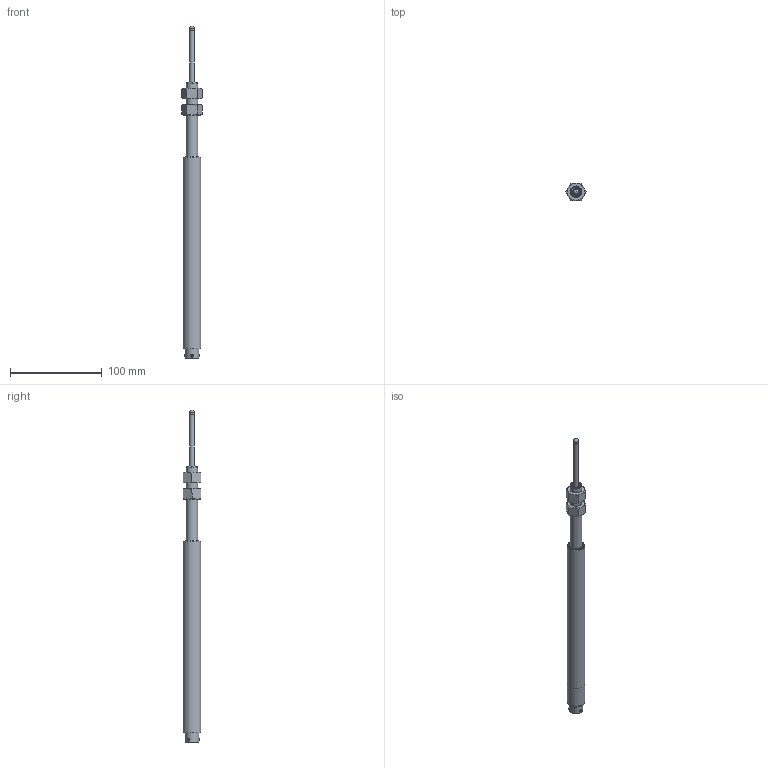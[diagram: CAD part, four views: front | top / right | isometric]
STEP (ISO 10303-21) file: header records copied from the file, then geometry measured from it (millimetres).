
FILE_DESCRIPTION(/* description */ (''),/* implementation_level */ '2;1');
FILE_NAME(/* name */ 'GH-750-I-2000 ASS''Y.iam.stp',/* time_stamp */ '2023-11-10T12:31:26-05:00',/* author */ ('Justin'),/* organization */ (''),/* preprocessor_version */ 'ST-DEVELOPER v20',/* originating_system */ 'Autodesk Inventor 2024',/* authorisation */ '');
FILE_SCHEMA (('AUTOMOTIVE_DESIGN { 1 0 10303 214 3 1 1 }'));
Length unit declared in the file: inch
Products named in the file (4): GH-750-D-1000 ASS'Y; GH-750-D-1000 HOUSING_SW; GH-750-D-1000 SHAFT_SW; AS 2465 - 1/2  UNF
Assembly tree (4 placements, depth 2):
  GH-750-D-1000 ASS'Y
    GH-750-D-1000 HOUSING_SW
    GH-750-D-1000 SHAFT_SW
    AS 2465 - 1/2  UNF  x2
Bounding box: 22 x 19.05 x 361.34 mm (x, y, z)
Volume: 34766.8 mm3; surface area: 37585.5 mm2
Topology: 12 solids, 12 shells, 184 faces, 370 edges, 236 vertices
Faces by surface type: plane 74, cylinder 59, cone 43, torus 4, bspline 3, sphere 1
Full cylindrical faces by diameter (mm): 0.762 x12, 2.032 x3, 2.845 x3, 3.048 x3, 4.826 x2, 5.334 x4, 5.397 x1, 7.671 x2, 7.874 x1, 11.328 x2, 12.7 x1, 13.208 x1, 14.986 x1, 15.748 x2, 16.51 x1, 17.069 x1, 18.034 x1, 18.415 x3, 19.05 x1
Entity records: 5052 total; most frequent: CARTESIAN_POINT 1260, DIRECTION 785, ORIENTED_EDGE 636, AXIS2_PLACEMENT_3D 334, EDGE_CURVE 318, VERTEX_POINT 207, EDGE_LOOP 203, CIRCLE 168
